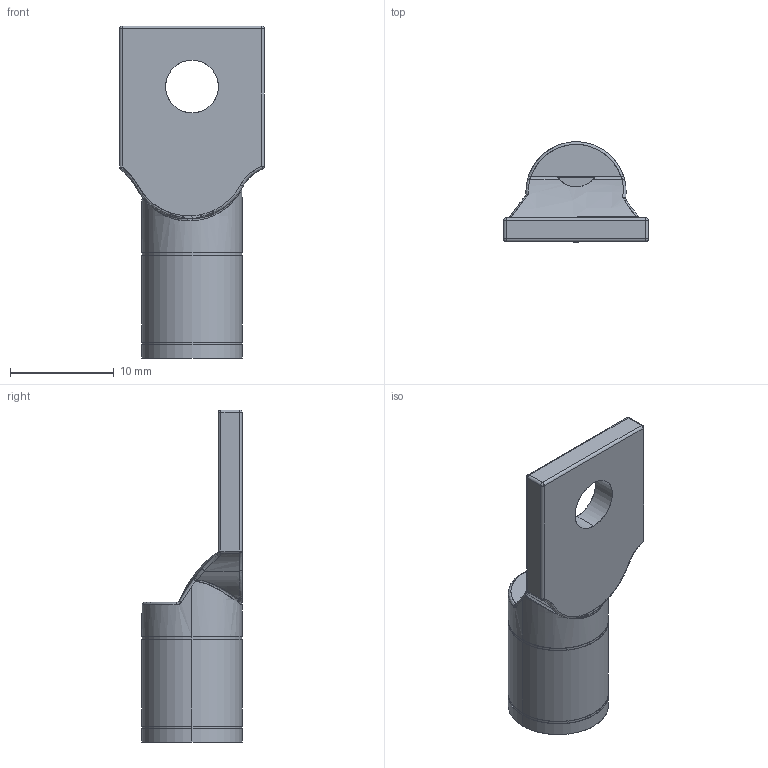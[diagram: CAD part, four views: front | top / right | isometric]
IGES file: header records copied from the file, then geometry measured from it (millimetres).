
Start section: SolidWorks IGES file using analytic representation for surfaces
Global section: file name: C:\Users\kkamath\Desktop\Acessories\23520r1.igs; native system: SolidWorks 2010; preprocessor: SolidWorks 2010; author: kkamath; date: 110711.100211; units: inch
Bounding box: 13.97 x 9.66 x 32 mm (x, y, z)
Surface area: 1133.1 mm2 (no closed solid volume)
Topology: 0 solids, 0 shells, 82 faces, 850 edges, 844 vertices
Faces by surface type: bspline 49, revolution 33
